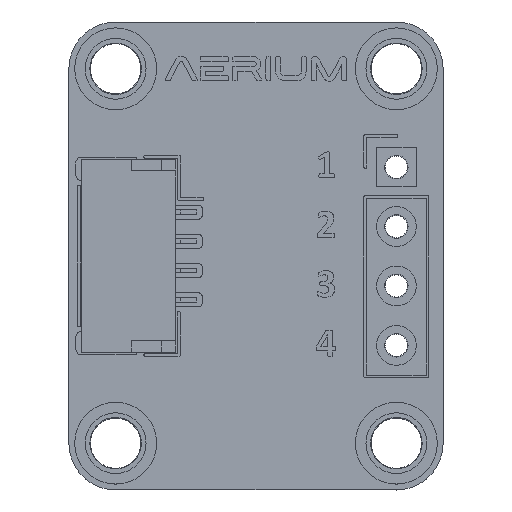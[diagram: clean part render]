
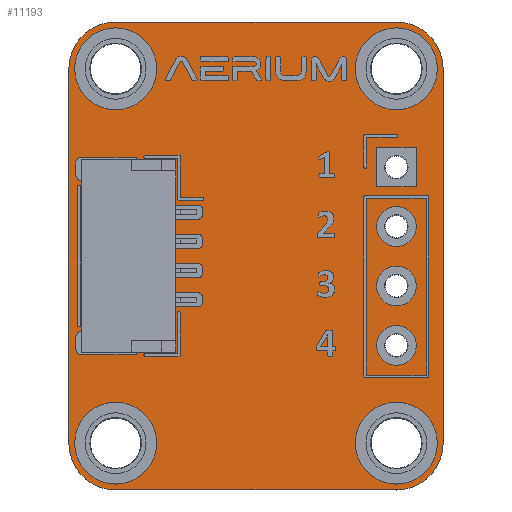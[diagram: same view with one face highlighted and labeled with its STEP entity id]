
A CAD part, top view. The second image highlights one B-rep face of the part: STEP entity #11193.
In plain terms, the highlighted planar face has unit normal (0, 0, 1).
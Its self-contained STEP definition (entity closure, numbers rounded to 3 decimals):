
#337=CIRCLE('',#11983,2.);
#350=CIRCLE('',#12000,2.);
#351=CIRCLE('',#12001,2.);
#352=CIRCLE('',#12002,2.);
#353=CIRCLE('',#12003,1.1);
#354=CIRCLE('',#12004,1.1);
#355=CIRCLE('',#12005,0.5);
#356=CIRCLE('',#12006,0.5);
#357=CIRCLE('',#12007,1.1);
#358=CIRCLE('',#12008,0.5);
#359=CIRCLE('',#12009,0.5);
#360=CIRCLE('',#12010,1.1);
#590=FACE_BOUND('',#1554,.T.);
#591=FACE_BOUND('',#1555,.T.);
#592=FACE_BOUND('',#1556,.T.);
#593=FACE_BOUND('',#1557,.T.);
#594=FACE_BOUND('',#1558,.T.);
#595=FACE_BOUND('',#1559,.T.);
#596=FACE_BOUND('',#1560,.T.);
#597=FACE_BOUND('',#1561,.T.);
#1026=FACE_OUTER_BOUND('',#1553,.T.);
#1553=EDGE_LOOP('',(#10055,#10056,#10057,#10058,#10059,#10060,#10061,#10062));
#1554=EDGE_LOOP('',(#10063));
#1555=EDGE_LOOP('',(#10064));
#1556=EDGE_LOOP('',(#10065));
#1557=EDGE_LOOP('',(#10066));
#1558=EDGE_LOOP('',(#10067));
#1559=EDGE_LOOP('',(#10068));
#1560=EDGE_LOOP('',(#10069));
#1561=EDGE_LOOP('',(#10070));
#2971=LINE('',#18317,#4388);
#2973=LINE('',#18321,#4390);
#2978=LINE('',#18355,#4395);
#2979=LINE('',#18359,#4396);
#4388=VECTOR('',#14792,1.);
#4390=VECTOR('',#14796,1.);
#4395=VECTOR('',#14829,1.);
#4396=VECTOR('',#14832,1.);
#5741=VERTEX_POINT('',#18306);
#5742=VERTEX_POINT('',#18308);
#5745=VERTEX_POINT('',#18315);
#5746=VERTEX_POINT('',#18320);
#5760=VERTEX_POINT('',#18352);
#5761=VERTEX_POINT('',#18354);
#5762=VERTEX_POINT('',#18356);
#5763=VERTEX_POINT('',#18358);
#5764=VERTEX_POINT('',#18361);
#5765=VERTEX_POINT('',#18363);
#5766=VERTEX_POINT('',#18365);
#5767=VERTEX_POINT('',#18367);
#5768=VERTEX_POINT('',#18369);
#5769=VERTEX_POINT('',#18371);
#5770=VERTEX_POINT('',#18373);
#5771=VERTEX_POINT('',#18375);
#7415=EDGE_CURVE('',#5741,#5742,#337,.T.);
#7419=EDGE_CURVE('',#5745,#5741,#2971,.T.);
#7421=EDGE_CURVE('',#5742,#5746,#2973,.T.);
#7437=EDGE_CURVE('',#5760,#5745,#350,.T.);
#7438=EDGE_CURVE('',#5761,#5760,#2978,.T.);
#7439=EDGE_CURVE('',#5762,#5761,#351,.T.);
#7440=EDGE_CURVE('',#5763,#5762,#2979,.T.);
#7441=EDGE_CURVE('',#5746,#5763,#352,.T.);
#7442=EDGE_CURVE('',#5764,#5764,#353,.T.);
#7443=EDGE_CURVE('',#5765,#5765,#354,.T.);
#7444=EDGE_CURVE('',#5766,#5766,#355,.T.);
#7445=EDGE_CURVE('',#5767,#5767,#356,.T.);
#7446=EDGE_CURVE('',#5768,#5768,#357,.T.);
#7447=EDGE_CURVE('',#5769,#5769,#358,.T.);
#7448=EDGE_CURVE('',#5770,#5770,#359,.T.);
#7449=EDGE_CURVE('',#5771,#5771,#360,.T.);
#10055=ORIENTED_EDGE('',*,*,#7415,.F.);
#10056=ORIENTED_EDGE('',*,*,#7419,.F.);
#10057=ORIENTED_EDGE('',*,*,#7437,.F.);
#10058=ORIENTED_EDGE('',*,*,#7438,.F.);
#10059=ORIENTED_EDGE('',*,*,#7439,.F.);
#10060=ORIENTED_EDGE('',*,*,#7440,.F.);
#10061=ORIENTED_EDGE('',*,*,#7441,.F.);
#10062=ORIENTED_EDGE('',*,*,#7421,.F.);
#10063=ORIENTED_EDGE('',*,*,#7442,.T.);
#10064=ORIENTED_EDGE('',*,*,#7443,.T.);
#10065=ORIENTED_EDGE('',*,*,#7444,.T.);
#10066=ORIENTED_EDGE('',*,*,#7445,.T.);
#10067=ORIENTED_EDGE('',*,*,#7446,.T.);
#10068=ORIENTED_EDGE('',*,*,#7447,.T.);
#10069=ORIENTED_EDGE('',*,*,#7448,.T.);
#10070=ORIENTED_EDGE('',*,*,#7449,.T.);
#10464=PLANE('',#11999);
#11193=ADVANCED_FACE('',(#1026,#590,#591,#592,#593,#594,#595,#596,#597),
#10464,.T.);
#11983=AXIS2_PLACEMENT_3D('',#18309,#14784,#14785);
#11999=AXIS2_PLACEMENT_3D('',#18351,#14825,#14826);
#12000=AXIS2_PLACEMENT_3D('',#18353,#14827,#14828);
#12001=AXIS2_PLACEMENT_3D('',#18357,#14830,#14831);
#12002=AXIS2_PLACEMENT_3D('',#18360,#14833,#14834);
#12003=AXIS2_PLACEMENT_3D('',#18362,#14835,#14836);
#12004=AXIS2_PLACEMENT_3D('',#18364,#14837,#14838);
#12005=AXIS2_PLACEMENT_3D('',#18366,#14839,#14840);
#12006=AXIS2_PLACEMENT_3D('',#18368,#14841,#14842);
#12007=AXIS2_PLACEMENT_3D('',#18370,#14843,#14844);
#12008=AXIS2_PLACEMENT_3D('',#18372,#14845,#14846);
#12009=AXIS2_PLACEMENT_3D('',#18374,#14847,#14848);
#12010=AXIS2_PLACEMENT_3D('',#18376,#14849,#14850);
#14784=DIRECTION('center_axis',(0.,0.,-1.));
#14785=DIRECTION('ref_axis',(0.,1.,0.));
#14792=DIRECTION('',(1.,0.,0.));
#14796=DIRECTION('',(0.,-1.,0.));
#14825=DIRECTION('center_axis',(0.,0.,1.));
#14826=DIRECTION('ref_axis',(1.,0.,0.));
#14827=DIRECTION('center_axis',(0.,0.,-1.));
#14828=DIRECTION('ref_axis',(-1.,0.,0.));
#14829=DIRECTION('',(0.,1.,0.));
#14830=DIRECTION('center_axis',(0.,0.,-1.));
#14831=DIRECTION('ref_axis',(0.,-1.,0.));
#14832=DIRECTION('',(-1.,0.,0.));
#14833=DIRECTION('center_axis',(0.,0.,-1.));
#14834=DIRECTION('ref_axis',(1.,0.,0.));
#14835=DIRECTION('center_axis',(0.,0.,-1.));
#14836=DIRECTION('ref_axis',(0.,-1.,0.));
#14837=DIRECTION('center_axis',(0.,0.,-1.));
#14838=DIRECTION('ref_axis',(0.,-1.,0.));
#14839=DIRECTION('center_axis',(0.,0.,-1.));
#14840=DIRECTION('ref_axis',(0.,-1.,0.));
#14841=DIRECTION('center_axis',(0.,0.,-1.));
#14842=DIRECTION('ref_axis',(0.,-1.,0.));
#14843=DIRECTION('center_axis',(0.,0.,-1.));
#14844=DIRECTION('ref_axis',(0.,-1.,0.));
#14845=DIRECTION('center_axis',(0.,0.,-1.));
#14846=DIRECTION('ref_axis',(0.,-1.,0.));
#14847=DIRECTION('center_axis',(0.,0.,-1.));
#14848=DIRECTION('ref_axis',(0.,-1.,0.));
#14849=DIRECTION('center_axis',(0.,0.,-1.));
#14850=DIRECTION('ref_axis',(0.,-1.,0.));
#18306=CARTESIAN_POINT('',(13.,-1.,1.51));
#18308=CARTESIAN_POINT('',(15.,-3.,1.51));
#18309=CARTESIAN_POINT('Origin',(13.,-3.,1.51));
#18315=CARTESIAN_POINT('',(1.,-1.,1.51));
#18317=CARTESIAN_POINT('',(1.,-1.,1.51));
#18320=CARTESIAN_POINT('',(15.,-19.,1.51));
#18321=CARTESIAN_POINT('',(15.,-3.,1.51));
#18351=CARTESIAN_POINT('Origin',(0.,0.,1.51));
#18352=CARTESIAN_POINT('',(-1.,-3.,1.51));
#18353=CARTESIAN_POINT('Origin',(1.,-3.,1.51));
#18354=CARTESIAN_POINT('',(-1.,-19.,1.51));
#18355=CARTESIAN_POINT('',(-1.,-19.,1.51));
#18356=CARTESIAN_POINT('',(1.,-21.,1.51));
#18357=CARTESIAN_POINT('Origin',(1.,-19.,1.51));
#18358=CARTESIAN_POINT('',(13.,-21.,1.51));
#18359=CARTESIAN_POINT('',(13.,-21.,1.51));
#18360=CARTESIAN_POINT('Origin',(13.,-19.,1.51));
#18361=CARTESIAN_POINT('',(1.,-17.9,1.51));
#18362=CARTESIAN_POINT('Origin',(1.,-19.,1.51));
#18363=CARTESIAN_POINT('',(13.,-17.9,1.51));
#18364=CARTESIAN_POINT('Origin',(13.,-19.,1.51));
#18365=CARTESIAN_POINT('',(13.,-14.32,1.51));
#18366=CARTESIAN_POINT('Origin',(13.,-14.82,1.51));
#18367=CARTESIAN_POINT('',(13.,-11.78,1.51));
#18368=CARTESIAN_POINT('Origin',(13.,-12.28,1.51));
#18369=CARTESIAN_POINT('',(1.,-1.9,1.51));
#18370=CARTESIAN_POINT('Origin',(1.,-3.,1.51));
#18371=CARTESIAN_POINT('',(13.,-9.24,1.51));
#18372=CARTESIAN_POINT('Origin',(13.,-9.74,1.51));
#18373=CARTESIAN_POINT('',(13.,-6.7,1.51));
#18374=CARTESIAN_POINT('Origin',(13.,-7.2,1.51));
#18375=CARTESIAN_POINT('',(13.,-1.9,1.51));
#18376=CARTESIAN_POINT('Origin',(13.,-3.,1.51));
